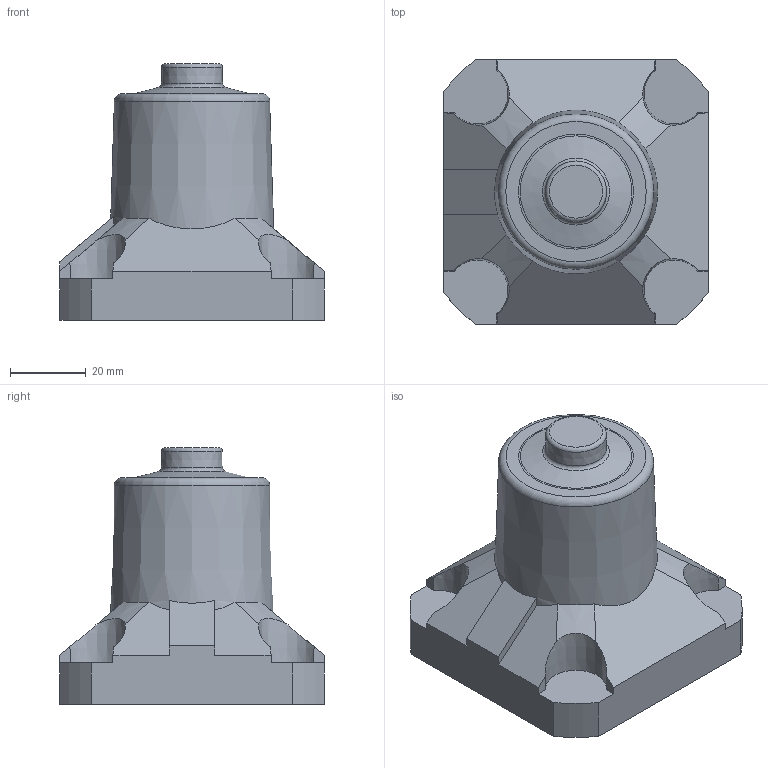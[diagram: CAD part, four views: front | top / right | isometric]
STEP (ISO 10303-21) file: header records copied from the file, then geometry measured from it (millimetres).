
FILE_DESCRIPTION(('STEP AP242'), '1');
FILE_NAME('扻豵鵨 2', '', ('UNSPECIFIED'), ('UNSPECIFIED'), 'C3D Converter', 'C3D Toolkit', '');
FILE_SCHEMA(('AP242_MANAGED_MODEL_BASED_3D_ENGINEERING_MIM_LF { 1 0 10303 442 1 1 4 }'));
Length unit declared in the file: millimetre
Bounding box: 70 x 70 x 68 mm (x, y, z)
Volume: 81945.2 mm3; surface area: 29839.2 mm2
Topology: 1 solids, 1 shells, 88 faces, 229 edges, 148 vertices
Faces by surface type: plane 39, cone 26, torus 19, cylinder 4
Entity records: 4116 total; most frequent: CARTESIAN_POINT 2060, ORIENTED_EDGE 416, DIRECTION 400, EDGE_CURVE 208, AXIS2_PLACEMENT_3D 172, VERTEX_POINT 148, EDGE_LOOP 114, ADVANCED_FACE 88
